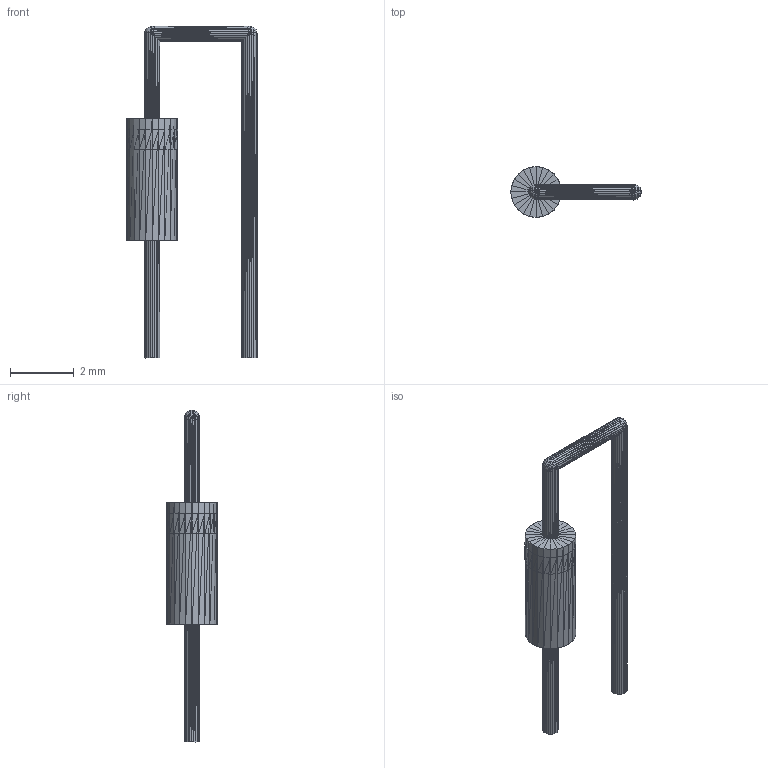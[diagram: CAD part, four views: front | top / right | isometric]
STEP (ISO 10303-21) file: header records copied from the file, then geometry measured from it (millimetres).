
FILE_DESCRIPTION(('HOOPS Exchange Step'),'2;1');
FILE_NAME('***.stp');
FILE_SCHEMA( ('AP242_MANAGED_MODEL_BASED_3D_ENGINEERING_MIM_LF {1 0 10303 442 1 1 4 }') );
Length unit declared in the file: inch
Products named in the file (8): DO-35_V_2; DO-35_V_3; DO-35_V_4; DO-35_V_5; DO-35_V_6; DO-35_V_7; DO-35_V_8; DO-35_V
Assembly tree (7 placements, depth 2):
  DO-35_V
    DO-35_V_2
    DO-35_V_3
    DO-35_V_4
    DO-35_V_5
    DO-35_V_6
    DO-35_V_7
    DO-35_V_8
Bounding box: 4.09 x 1.6 x 10.4 mm (x, y, z)
Volume: 13.1 mm3; surface area: 68.3 mm2
Topology: 7 solids, 7 shells, 1056 faces, 1584 edges, 542 vertices
Faces by surface type: plane 1056
Entity records: 20963 total; most frequent: DIRECTION 3728, CARTESIAN_POINT 3198, ORIENTED_EDGE 3168, VECTOR 1584, LINE 1584, EDGE_CURVE 1584, AXIS2_PLACEMENT_3D 1072, PLANE 1056
